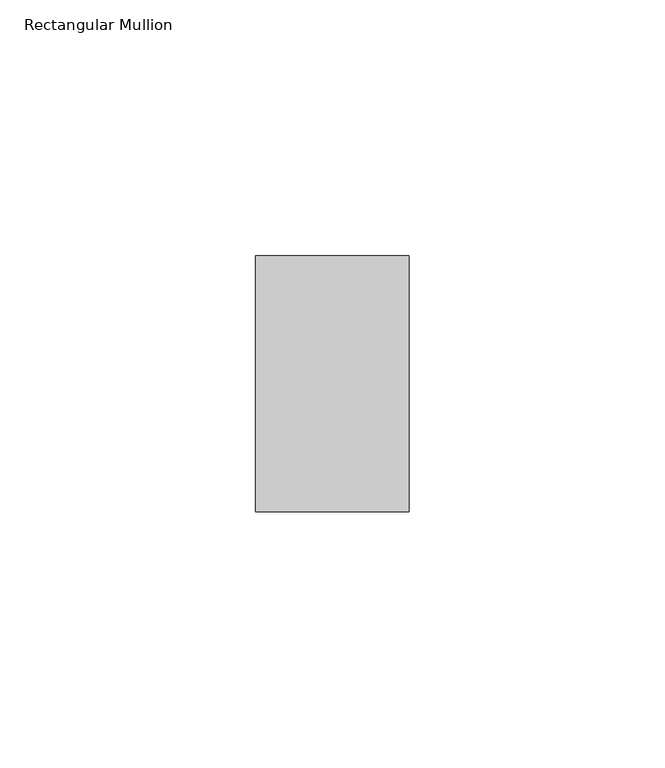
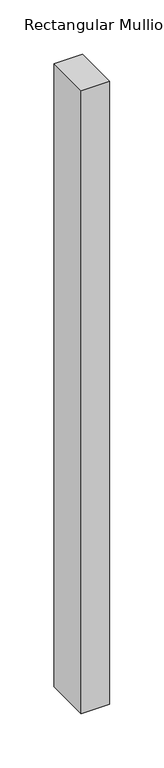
"""IFC4 building model written with IfcOpenShell, lengths in millimetres: member geometry, Rectangular Mullion : ARQ_TV_MULL_50x30mm."""

import ifcopenshell
import ifcopenshell.guid

model = None  # the IFC model being written
_history = None  # IfcOwnerHistory: only IFC2X3 demands one
_inside = {}  # id of a spatial element -> (the spatial element, [elements in it])
_under = {}  # id of a project, library or spatial element -> (it, [spatial elements below it])
_declared = {}  # id of a project -> (the project, [libraries it declares])
_typed = {}  # id of a type object -> (the type object, [elements of that type])
_made_of = {}  # id of a material, layer set ... -> (it, [elements and type objects made of it])


def new_model(schema):
    """Start an empty IFC model of exactly this schema.

    Asked for "IFC4X3", IfcOpenShell would pick the latest addendum, in which some entities
    have other attributes; the version numbers below select the first issue.
    IFC2X3 requires an IfcOwnerHistory on every rooted entity: one is made here for all.
    """
    global model, _history
    if schema == "IFC4X3":
        model = ifcopenshell.file(schema_version=(4, 3, 0, 0))
    else:
        model = ifcopenshell.file(schema=schema)
    _inside.clear()
    _under.clear()
    _declared.clear()
    _typed.clear()
    _made_of.clear()
    _history = None
    if model.schema == "IFC2X3":
        org = make("IfcOrganization", Name="unknown")
        user = make(
            "IfcPersonAndOrganization",
            ThePerson=make("IfcPerson", FamilyName="unknown"),
            TheOrganization=org,
        )
        app = make(
            "IfcApplication",
            ApplicationDeveloper=org,
            Version="unknown",
            ApplicationFullName="unknown",
            ApplicationIdentifier="unknown",
        )
        _history = make(
            "IfcOwnerHistory",
            OwningUser=user,
            OwningApplication=app,
            ChangeAction="ADDED",
            CreationDate=0,
        )
    return model


def make(cls, **values):
    """One entity of the class cls with the attributes given. An attribute that is None is left unset."""
    return model.create_entity(
        cls, **{name: value for name, value in values.items() if value is not None}
    )


def rooted(cls, **values):
    """An entity with a GlobalId (a new one), such as an element, a storey or a relation."""
    return make(cls, GlobalId=ifcopenshell.guid.new(), OwnerHistory=_history, **values)


def si_unit(unit_type, name, prefix=None):
    """IfcSIUnit, for example si_unit("LENGTHUNIT", "METRE", prefix="MILLI")."""
    return make("IfcSIUnit", UnitType=unit_type, Prefix=prefix, Name=name)


def assignment(units):
    """IfcUnitAssignment: the units of a project."""
    return None if units is None else make("IfcUnitAssignment", Units=units)


def point(xyz):
    """IfcCartesianPoint."""
    return None if xyz is None else make("IfcCartesianPoint", Coordinates=xyz)


def direction(xyz):
    """IfcDirection."""
    return None if xyz is None else make("IfcDirection", DirectionRatios=xyz)


def frame(location, z_axis=None, x_axis=None):
    """IfcAxis2Placement3D, a coordinate frame: its origin and axes. An axis left out is left unset."""
    return make(
        "IfcAxis2Placement3D",
        Location=point(location),
        Axis=direction(z_axis),
        RefDirection=direction(x_axis),
    )


def origin():
    """The frame at (0, 0, 0) with its axes left unset."""
    return frame((0.0, 0.0, 0.0))


def place(relative_to, where):
    """IfcLocalPlacement: puts the frame where relative to a parent placement (None: the world)."""
    return make(
        "IfcLocalPlacement", PlacementRelTo=relative_to, RelativePlacement=where
    )


def context(
    kind, dimensions, precision=None, world=None, true_north=None, identifier=None
):
    """IfcGeometricRepresentationContext, for example the 3D "Model" context."""
    return make(
        "IfcGeometricRepresentationContext",
        ContextIdentifier=identifier,
        ContextType=kind,
        CoordinateSpaceDimension=dimensions,
        Precision=precision,
        WorldCoordinateSystem=world,
        TrueNorth=true_north,
    )


def project(units=None, contexts=None):
    """IfcProject with its units and contexts."""
    return rooted(
        "IfcProject",
        Name="project",
        RepresentationContexts=contexts,
        UnitsInContext=assignment(units),
    )


def spatial(cls, under=None, at=None, **own):
    """A site, building, storey or space (cls), placed at a placement, below another one or the project."""
    s = rooted(cls, ObjectPlacement=at, **own)
    if under is not None:
        _under.setdefault(under.id(), (under, []))[1].append(s)
    return s


def polyline(points):
    """IfcPolyline through the points."""
    return make("IfcPolyline", Points=[point(p) for p in points])


def outline(outer, holes=None, kind="AREA"):
    """IfcArbitraryClosedProfileDef: a profile drawn as a closed curve; with holes, ...WithVoids."""
    if holes is None:
        return make("IfcArbitraryClosedProfileDef", ProfileType=kind, OuterCurve=outer)
    return make(
        "IfcArbitraryProfileDefWithVoids",
        ProfileType=kind,
        OuterCurve=outer,
        InnerCurves=holes,
    )


def extrude(swept, where, along, depth):
    """IfcExtrudedAreaSolid: the profile swept, set in the frame where, extruded along a direction by depth."""
    return make(
        "IfcExtrudedAreaSolid",
        SweptArea=swept,
        Position=where,
        ExtrudedDirection=direction(along),
        Depth=depth,
    )


def shape(context_of_items, identifier, shape_type, items):
    """IfcShapeRepresentation: the items that make up one representation, for example the "Body"."""
    return make(
        "IfcShapeRepresentation",
        ContextOfItems=context_of_items,
        RepresentationIdentifier=identifier,
        RepresentationType=shape_type,
        Items=items,
    )


def source(mapping_origin, context_of_items, identifier, shape_type, items):
    """IfcRepresentationMap: a shape defined once, which mapped items show again and again."""
    return make(
        "IfcRepresentationMap",
        MappingOrigin=mapping_origin,
        MappedRepresentation=shape(context_of_items, identifier, shape_type, items),
    )


def transform(
    local_origin,
    x_axis=None,
    y_axis=None,
    z_axis=None,
    scale=None,
    scale2=None,
    scale3=None,
    uniform=True,
):
    """IfcCartesianTransformationOperator3D, or its non-uniform kind. x_axis, y_axis, z_axis: its Axis1, 2, 3."""
    if uniform:
        return make(
            "IfcCartesianTransformationOperator3D",
            Axis1=direction(x_axis),
            Axis2=direction(y_axis),
            LocalOrigin=point(local_origin),
            Scale=scale,
            Axis3=direction(z_axis),
        )
    return make(
        "IfcCartesianTransformationOperator3DnonUniform",
        Axis1=direction(x_axis),
        Axis2=direction(y_axis),
        LocalOrigin=point(local_origin),
        Scale=scale,
        Axis3=direction(z_axis),
        Scale2=scale2,
        Scale3=scale3,
    )


def mapped(mapping_source, mapping_target):
    """IfcMappedItem: shows the shape of a source again, moved by a transform."""
    return make(
        "IfcMappedItem", MappingSource=mapping_source, MappingTarget=mapping_target
    )


def made_of(thing, what):
    """Note that an element or type object is made of a material, layer set ...; save() writes the relation."""
    if what is not None:
        _made_of.setdefault(what.id(), (what, []))[1].append(thing)
    return thing


def element(
    cls,
    number,
    at=None,
    inside=None,
    cuts=None,
    type_object=None,
    material=None,
    context=None,
    identifier="Body",
    shape_type=None,
    held_by="IfcProductDefinitionShape",
    body=None,
    shapes=None,
    **own,
):
    """One element of the class cls, such as IfcWall. Its Tag is "e" and its number.

    at: its placement. inside: the storey or other place that contains it. cuts: it is an
    opening in that element (IfcRelVoidsElement). A single representation is given by context,
    identifier, shape_type and body (its items); several are given by shapes. held_by: the class
    of the entity that holds the representations. save() writes the other relations.
    """
    e = rooted(cls, Tag="e%d" % number, ObjectPlacement=at, **own)
    if body is not None:
        shapes = [shape(context, identifier, shape_type, body)]
    if shapes is not None:
        e.Representation = make(held_by, Representations=shapes)
    if inside is not None:
        _inside.setdefault(inside.id(), (inside, []))[1].append(e)
    if cuts is not None:
        rooted(
            "IfcRelVoidsElement", RelatingBuildingElement=cuts, RelatedOpeningElement=e
        )
    if type_object is not None:
        _typed.setdefault(type_object.id(), (type_object, []))[1].append(e)
    return made_of(e, material)


def aggregate(whole, parts):
    """IfcRelAggregates: a whole, such as a stair, and the parts it consists of."""
    return rooted("IfcRelAggregates", RelatingObject=whole, RelatedObjects=parts)


def save(model, path):
    """Write the relations noted so far, then the file.

    IfcRelAggregates (storeys below a building ...), IfcRelContainedInSpatialStructure (elements
    in a storey), IfcRelDefinesByType, IfcRelAssociatesMaterial and IfcRelDeclares: one each for
    every whole, place, type object, material and project.
    """
    for whole, parts in _under.values():
        aggregate(whole, parts)
    for where, things in _inside.values():
        rooted(
            "IfcRelContainedInSpatialStructure",
            RelatedElements=things,
            RelatingStructure=where,
        )
    for kind, things in _typed.values():
        rooted("IfcRelDefinesByType", RelatedObjects=things, RelatingType=kind)
    for what, things in _made_of.values():
        rooted("IfcRelAssociatesMaterial", RelatedObjects=things, RelatingMaterial=what)
    for by, libraries in _declared.values():
        rooted("IfcRelDeclares", RelatingContext=by, RelatedDefinitions=libraries)
    model.write(path)


def rectangular_mullion_5c6d569c(model_context):
    return source(origin(), model_context, "Body", "SweptSolid", [
        extrude(outline(polyline([(0.0, 25.0), (0.0, -25.0), (-30.0, -25.0), (-30.0, 25.0), (0.0, 25.0)])), frame((0.0, 0.0, -700.0), z_axis=(0.0, 0.0, 1.0), x_axis=(1.0, 0.0, 0.0)), (0.0, 0.0, 1.0), 700.0),
    ])


if __name__ == "__main__":
    model = new_model("IFC4")
    model_context = context("Model", 3, world=origin())
    ifc_project = project(units=[si_unit("LENGTHUNIT", "METRE", prefix="MILLI")], contexts=[model_context])
    site = spatial("IfcSite", under=ifc_project)
    building = spatial("IfcBuilding", under=site)
    placement = place(None, origin())
    rectangular_mullion_shape = rectangular_mullion_5c6d569c(model_context)
    element("IfcMember", 1, ObjectType="Rectangular Mullion : ARQ_TV_MULL_50x30mm", at=placement, inside=building, context=model_context, shape_type="MappedRepresentation", body=[
        mapped(rectangular_mullion_shape, transform((0.0, 0.0, 0.0), x_axis=(1.0, 0.0, 0.0), y_axis=(0.0, 1.0, 0.0), z_axis=(0.0, 0.0, 1.0))),
    ])
    save(model, "model.ifc")
